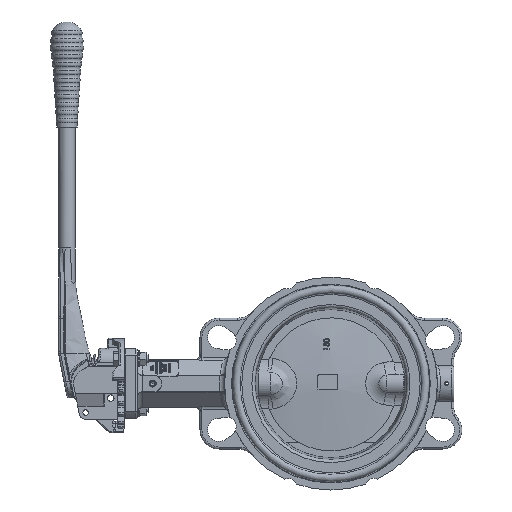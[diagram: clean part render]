
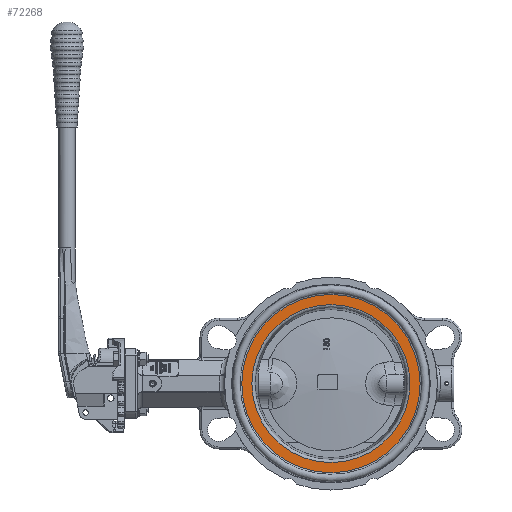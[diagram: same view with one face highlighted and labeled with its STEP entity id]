
A CAD part, left-side view. The second image highlights one B-rep face of the part: STEP entity #72268.
In plain terms, the highlighted planar face has unit normal (-1, 0, 0).
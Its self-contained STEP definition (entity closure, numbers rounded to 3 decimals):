
#71464=CARTESIAN_POINT('',(-27.75,0.,-78.727));
#71465=VERTEX_POINT('',#71464);
#71466=CARTESIAN_POINT('',(-27.75,0.,0.));
#71467=DIRECTION('',(1.0,0.0,0.0));
#71468=DIRECTION('',(0.0,0.0,-1.0));
#71469=AXIS2_PLACEMENT_3D('',#71466,#71467,#71468);
#71470=CIRCLE('',#71469,78.727);
#71471=EDGE_CURVE('',#71465,#71465,#71470,.T.);
#72249=CARTESIAN_POINT('',(-27.75,88.827,0.));
#72250=DIRECTION('',(1.0,0.0,0.0));
#72251=DIRECTION('',(0.0,0.0,-1.0));
#72252=AXIS2_PLACEMENT_3D('',#72249,#72250,#72251);
#72253=PLANE('',#72252);
#72254=CARTESIAN_POINT('',(-27.75,0.,-88.827));
#72255=VERTEX_POINT('',#72254);
#72256=CARTESIAN_POINT('',(-27.75,0.,0.));
#72257=DIRECTION('',(1.0,0.0,0.0));
#72258=DIRECTION('',(0.0,0.0,-1.0));
#72259=AXIS2_PLACEMENT_3D('',#72256,#72257,#72258);
#72260=CIRCLE('',#72259,88.827);
#72261=EDGE_CURVE('',#72255,#72255,#72260,.T.);
#72262=ORIENTED_EDGE('',*,*,#72261,.F.);
#72263=EDGE_LOOP('',(#72262));
#72264=FACE_OUTER_BOUND('',#72263,.T.);
#72265=ORIENTED_EDGE('',*,*,#71471,.T.);
#72266=EDGE_LOOP('',(#72265));
#72267=FACE_BOUND('',#72266,.T.);
#72268=ADVANCED_FACE('',(#72264,#72267),#72253,.F.);
